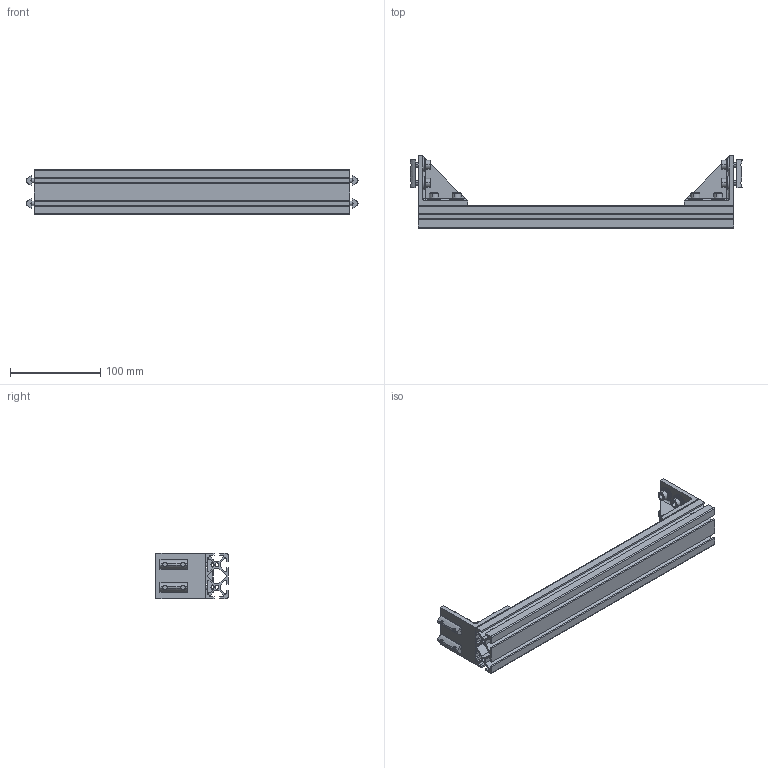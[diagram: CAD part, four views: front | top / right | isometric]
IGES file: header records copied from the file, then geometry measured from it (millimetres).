
Start section: SolidWorks IGES file using analytic representation for surfaces
Global section: file name: E:\EFCKishi\基礎フレーム\EFCK8000\IGES\EFCK-8002.IGS; native system: SolidWorks 2006 by SolidWorks Corporation; preprocessor: SolidWorks 2006 by SolidWorks Corporation; author: CAD58; date: 080913.103305; units: millimetre
Bounding box: 368.2 x 80 x 50 mm (x, y, z)
Surface area: 194351.8 mm2 (no closed solid volume)
Topology: 0 solids, 0 shells, 744 faces, 10644 edges, 10544 vertices
Faces by surface type: bspline 440, revolution 304
